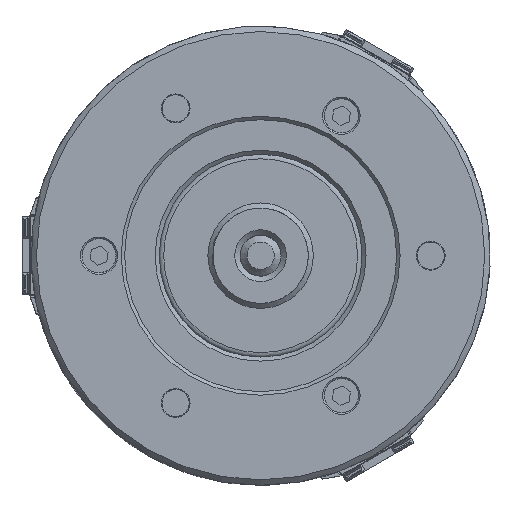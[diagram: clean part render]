
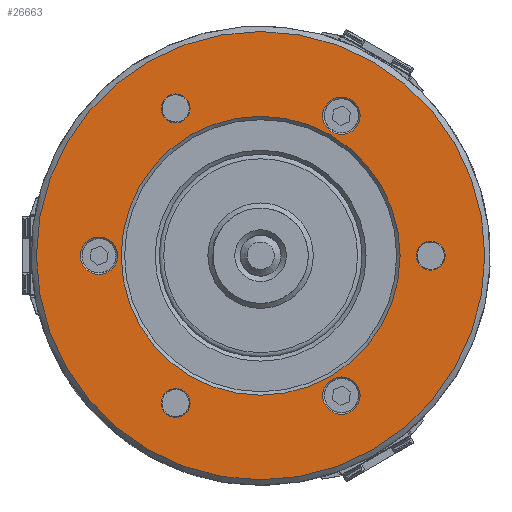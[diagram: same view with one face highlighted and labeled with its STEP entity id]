
A CAD part, left-side view. The second image highlights one B-rep face of the part: STEP entity #26663.
In plain terms, the highlighted planar face has unit normal (-1, 0, 0).
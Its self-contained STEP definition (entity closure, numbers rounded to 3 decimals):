
#828 = FACE_BOUND ( 'NONE', #24673, .T. ) ;
#1042 = CARTESIAN_POINT ( 'NONE',  ( 0., 0., 0. ) ) ;
#1153 = CARTESIAN_POINT ( 'NONE',  ( 0., -50., 0. ) ) ;
#2178 = CIRCLE ( 'NONE', #43309, 4.25 ) ;
#2310 = ORIENTED_EDGE ( 'NONE', *, *, #46812, .T. ) ;
#2579 = VERTEX_POINT ( 'NONE', #20171 ) ;
#3189 = FACE_BOUND ( 'NONE', #47269, .T. ) ;
#3765 = CIRCLE ( 'NONE', #29055, 5.5 ) ;
#4906 = ORIENTED_EDGE ( 'NONE', *, *, #10492, .F. ) ;
#6175 = VERTEX_POINT ( 'NONE', #45633 ) ;
#6426 = DIRECTION ( 'NONE',  ( 1., 0., 0. ) ) ;
#6701 = EDGE_CURVE ( 'NONE', #28374, #28374, #29814, .T. ) ;
#7903 = AXIS2_PLACEMENT_3D ( 'NONE', #24256, #13057, #39367 ) ;
#8008 = CARTESIAN_POINT ( 'NONE',  ( 0., 28.681, -41.176 ) ) ;
#8117 = DIRECTION ( 'NONE',  ( 0., 0., -1. ) ) ;
#8455 = FACE_BOUND ( 'NONE', #34276, .T. ) ;
#8629 = CARTESIAN_POINT ( 'NONE',  ( 0., -50., -4.25 ) ) ;
#9287 = CIRCLE ( 'NONE', #41864, 5.5 ) ;
#9312 = ORIENTED_EDGE ( 'NONE', *, *, #11124, .T. ) ;
#10492 = EDGE_CURVE ( 'NONE', #37796, #37796, #9287, .T. ) ;
#11124 = EDGE_CURVE ( 'NONE', #16590, #16590, #33244, .T. ) ;
#11901 = FACE_OUTER_BOUND ( 'NONE', #17546, .T. ) ;
#12113 = ORIENTED_EDGE ( 'NONE', *, *, #12871, .F. ) ;
#12871 = EDGE_CURVE ( 'NONE', #6175, #6175, #3765, .T. ) ;
#13057 = DIRECTION ( 'NONE',  ( 1., 0., 0. ) ) ;
#13691 = CARTESIAN_POINT ( 'NONE',  ( 0., 25., 43.301 ) ) ;
#15403 = CARTESIAN_POINT ( 'NONE',  ( 0., 0., 0. ) ) ;
#15414 = FACE_BOUND ( 'NONE', #37130, .T. ) ;
#16590 = VERTEX_POINT ( 'NONE', #27078 ) ;
#17546 = EDGE_LOOP ( 'NONE', ( #9312 ) ) ;
#17590 = DIRECTION ( 'NONE',  ( 0., -0.866, 0.5 ) ) ;
#17840 = AXIS2_PLACEMENT_3D ( 'NONE', #25880, #29166, #37227 ) ;
#18304 = FACE_BOUND ( 'NONE', #31811, .T. ) ;
#18930 = FACE_BOUND ( 'NONE', #35044, .T. ) ;
#19553 = AXIS2_PLACEMENT_3D ( 'NONE', #15403, #26568, #30666 ) ;
#19736 = DIRECTION ( 'NONE',  ( 0., 0., -1. ) ) ;
#20077 = VERTEX_POINT ( 'NONE', #8629 ) ;
#20171 = CARTESIAN_POINT ( 'NONE',  ( 0., -28.513, 38.386 ) ) ;
#20488 = CARTESIAN_POINT ( 'NONE',  ( 0., 21.319, 45.426 ) ) ;
#22555 = CARTESIAN_POINT ( 'NONE',  ( 0., -23.75, -41.136 ) ) ;
#23024 = EDGE_LOOP ( 'NONE', ( #29577 ) ) ;
#23581 = CIRCLE ( 'NONE', #40181, 4.25 ) ;
#24256 = CARTESIAN_POINT ( 'NONE',  ( 0., 25., -43.301 ) ) ;
#24673 = EDGE_LOOP ( 'NONE', ( #38489 ) ) ;
#25880 = CARTESIAN_POINT ( 'NONE',  ( 0., 0., 0. ) ) ;
#26568 = DIRECTION ( 'NONE',  ( -1., 0., 0. ) ) ;
#26663 = ADVANCED_FACE ( 'NONE', ( #828, #11901, #3189, #18930, #18304, #35409, #15414, #8455 ), #34462, .F. ) ;
#26822 = CIRCLE ( 'NONE', #45762, 5.5 ) ;
#27078 = CARTESIAN_POINT ( 'NONE',  ( 0., 0., -65.9 ) ) ;
#27260 = EDGE_CURVE ( 'NONE', #20077, #20077, #23581, .T. ) ;
#28374 = VERTEX_POINT ( 'NONE', #8008 ) ;
#28406 = DIRECTION ( 'NONE',  ( -1., 0., 0. ) ) ;
#29055 = AXIS2_PLACEMENT_3D ( 'NONE', #22555, #48635, #41111 ) ;
#29166 = DIRECTION ( 'NONE',  ( -1., 0., 0. ) ) ;
#29577 = ORIENTED_EDGE ( 'NONE', *, *, #6701, .T. ) ;
#29814 = CIRCLE ( 'NONE', #7903, 4.25 ) ;
#30666 = DIRECTION ( 'NONE',  ( 0., 0., -1. ) ) ;
#30861 = ORIENTED_EDGE ( 'NONE', *, *, #27260, .T. ) ;
#31548 = CARTESIAN_POINT ( 'NONE',  ( 0., -23.75, 41.136 ) ) ;
#31811 = EDGE_LOOP ( 'NONE', ( #2310 ) ) ;
#33244 = CIRCLE ( 'NONE', #19553, 65.9 ) ;
#33404 = ORIENTED_EDGE ( 'NONE', *, *, #44371, .F. ) ;
#33754 = CIRCLE ( 'NONE', #17840, 41. ) ;
#33874 = CARTESIAN_POINT ( 'NONE',  ( 0., 47.5, 0. ) ) ;
#34276 = EDGE_LOOP ( 'NONE', ( #30861 ) ) ;
#34462 = PLANE ( 'NONE',  #42032 ) ;
#34621 = DIRECTION ( 'NONE',  ( 1., 0., 0. ) ) ;
#35044 = EDGE_LOOP ( 'NONE', ( #33404 ) ) ;
#35409 = FACE_BOUND ( 'NONE', #23024, .T. ) ;
#37130 = EDGE_LOOP ( 'NONE', ( #4906 ) ) ;
#37227 = DIRECTION ( 'NONE',  ( 0., 0., 1. ) ) ;
#37796 = VERTEX_POINT ( 'NONE', #41698 ) ;
#38000 = DIRECTION ( 'NONE',  ( -1., 0., 0. ) ) ;
#38489 = ORIENTED_EDGE ( 'NONE', *, *, #47166, .F. ) ;
#38665 = DIRECTION ( 'NONE',  ( 1., 0., 0. ) ) ;
#39367 = DIRECTION ( 'NONE',  ( 0., 0.866, 0.5 ) ) ;
#39416 = CARTESIAN_POINT ( 'NONE',  ( 0., 0., 41. ) ) ;
#39614 = DIRECTION ( 'NONE',  ( 0., -0.866, -0.5 ) ) ;
#40181 = AXIS2_PLACEMENT_3D ( 'NONE', #1153, #38665, #19736 ) ;
#40691 = VERTEX_POINT ( 'NONE', #20488 ) ;
#41111 = DIRECTION ( 'NONE',  ( 0., 0.866, -0.5 ) ) ;
#41698 = CARTESIAN_POINT ( 'NONE',  ( 0., 47.5, 5.5 ) ) ;
#41864 = AXIS2_PLACEMENT_3D ( 'NONE', #33874, #38000, #45160 ) ;
#42032 = AXIS2_PLACEMENT_3D ( 'NONE', #1042, #34621, #8117 ) ;
#43309 = AXIS2_PLACEMENT_3D ( 'NONE', #13691, #6426, #17590 ) ;
#44371 = EDGE_CURVE ( 'NONE', #2579, #2579, #26822, .T. ) ;
#45160 = DIRECTION ( 'NONE',  ( 0., 0., 1. ) ) ;
#45633 = CARTESIAN_POINT ( 'NONE',  ( 0., -18.987, -43.886 ) ) ;
#45762 = AXIS2_PLACEMENT_3D ( 'NONE', #31548, #28406, #39614 ) ;
#46812 = EDGE_CURVE ( 'NONE', #40691, #40691, #2178, .T. ) ;
#47166 = EDGE_CURVE ( 'NONE', #48313, #48313, #33754, .T. ) ;
#47269 = EDGE_LOOP ( 'NONE', ( #12113 ) ) ;
#48313 = VERTEX_POINT ( 'NONE', #39416 ) ;
#48635 = DIRECTION ( 'NONE',  ( -1., 0., 0. ) ) ;
